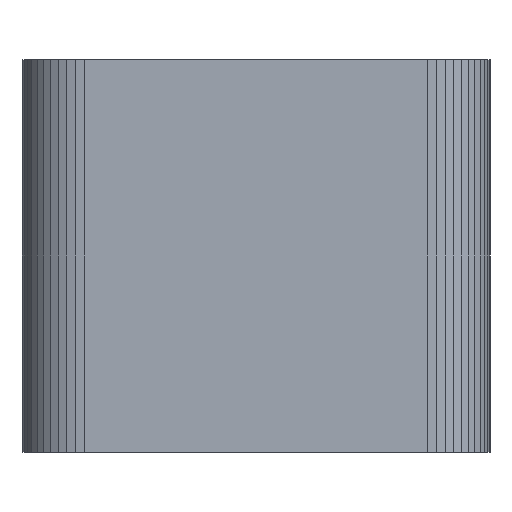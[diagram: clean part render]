
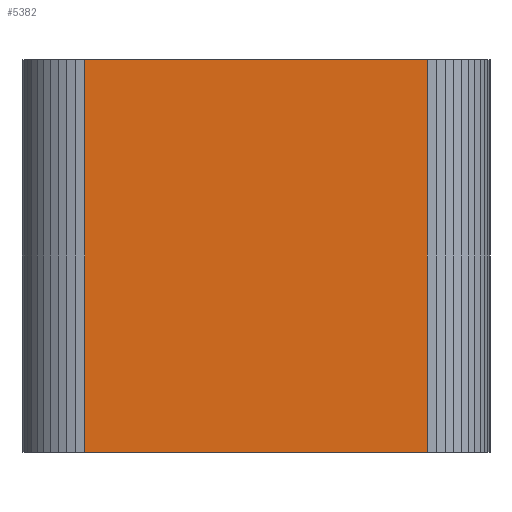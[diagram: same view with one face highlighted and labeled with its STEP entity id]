
A CAD part, left-side view. The second image highlights one B-rep face of the part: STEP entity #5382.
In plain terms, the highlighted planar face has unit normal (-1, 0, 0).
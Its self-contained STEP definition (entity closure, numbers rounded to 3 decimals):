
#72 = PLANE('',#73);
#73 = AXIS2_PLACEMENT_3D('',#74,#75,#76);
#74 = CARTESIAN_POINT('',(0.,0.,66.5));
#75 = DIRECTION('',(0.,0.,1.));
#76 = DIRECTION('',(1.,0.,-0.));
#126 = PLANE('',#127);
#127 = AXIS2_PLACEMENT_3D('',#128,#129,#130);
#128 = CARTESIAN_POINT('',(0.,0.,0.));
#129 = DIRECTION('',(0.,0.,1.));
#130 = DIRECTION('',(1.,0.,-0.));
#494 = VERTEX_POINT('',#495);
#495 = CARTESIAN_POINT('',(-60.6,29.,66.5));
#509 = PLANE('',#510);
#510 = AXIS2_PLACEMENT_3D('',#511,#512,#513);
#511 = CARTESIAN_POINT('',(-60.492,30.509,0.));
#512 = DIRECTION('',(0.997,-0.071,0.));
#513 = DIRECTION('',(-0.071,-0.997,0.));
#521 = EDGE_CURVE('',#522,#494,#524,.T.);
#522 = VERTEX_POINT('',#523);
#523 = CARTESIAN_POINT('',(-60.6,-29.,66.5));
#524 = SURFACE_CURVE('',#525,(#529,#536),.PCURVE_S1.);
#525 = LINE('',#526,#527);
#526 = CARTESIAN_POINT('',(-60.6,-29.,66.5));
#527 = VECTOR('',#528,1.);
#528 = DIRECTION('',(0.,1.,0.));
#529 = PCURVE('',#72,#530);
#530 = DEFINITIONAL_REPRESENTATION('',(#531),#535);
#531 = LINE('',#532,#533);
#532 = CARTESIAN_POINT('',(-60.6,-29.));
#533 = VECTOR('',#534,1.);
#534 = DIRECTION('',(0.,1.));
#535 = ( GEOMETRIC_REPRESENTATION_CONTEXT(2) 
PARAMETRIC_REPRESENTATION_CONTEXT() REPRESENTATION_CONTEXT('2D SPACE',''
  ) );
#536 = PCURVE('',#537,#542);
#537 = PLANE('',#538);
#538 = AXIS2_PLACEMENT_3D('',#539,#540,#541);
#539 = CARTESIAN_POINT('',(-60.6,29.,0.));
#540 = DIRECTION('',(1.,0.,-0.));
#541 = DIRECTION('',(0.,-1.,0.));
#542 = DEFINITIONAL_REPRESENTATION('',(#543),#547);
#543 = LINE('',#544,#545);
#544 = CARTESIAN_POINT('',(58.,-66.5));
#545 = VECTOR('',#546,1.);
#546 = DIRECTION('',(-1.,0.));
#547 = ( GEOMETRIC_REPRESENTATION_CONTEXT(2) 
PARAMETRIC_REPRESENTATION_CONTEXT() REPRESENTATION_CONTEXT('2D SPACE',''
  ) );
#565 = PLANE('',#566);
#566 = AXIS2_PLACEMENT_3D('',#567,#568,#569);
#567 = CARTESIAN_POINT('',(-60.6,-29.,0.));
#568 = DIRECTION('',(0.997,0.071,-0.));
#569 = DIRECTION('',(0.071,-0.997,0.));
#3007 = VERTEX_POINT('',#3008);
#3008 = CARTESIAN_POINT('',(-60.6,29.,0.));
#3029 = EDGE_CURVE('',#3007,#3030,#3032,.T.);
#3030 = VERTEX_POINT('',#3031);
#3031 = CARTESIAN_POINT('',(-60.6,-29.,0.));
#3032 = SURFACE_CURVE('',#3033,(#3037,#3044),.PCURVE_S1.);
#3033 = LINE('',#3034,#3035);
#3034 = CARTESIAN_POINT('',(-60.6,29.,0.));
#3035 = VECTOR('',#3036,1.);
#3036 = DIRECTION('',(0.,-1.,0.));
#3037 = PCURVE('',#126,#3038);
#3038 = DEFINITIONAL_REPRESENTATION('',(#3039),#3043);
#3039 = LINE('',#3040,#3041);
#3040 = CARTESIAN_POINT('',(-60.6,29.));
#3041 = VECTOR('',#3042,1.);
#3042 = DIRECTION('',(0.,-1.));
#3043 = ( GEOMETRIC_REPRESENTATION_CONTEXT(2) 
PARAMETRIC_REPRESENTATION_CONTEXT() REPRESENTATION_CONTEXT('2D SPACE',''
  ) );
#3044 = PCURVE('',#537,#3045);
#3045 = DEFINITIONAL_REPRESENTATION('',(#3046),#3050);
#3046 = LINE('',#3047,#3048);
#3047 = CARTESIAN_POINT('',(0.,0.));
#3048 = VECTOR('',#3049,1.);
#3049 = DIRECTION('',(1.,0.));
#3050 = ( GEOMETRIC_REPRESENTATION_CONTEXT(2) 
PARAMETRIC_REPRESENTATION_CONTEXT() REPRESENTATION_CONTEXT('2D SPACE',''
  ) );
#5334 = EDGE_CURVE('',#3007,#494,#5335,.T.);
#5335 = SURFACE_CURVE('',#5336,(#5340,#5347),.PCURVE_S1.);
#5336 = LINE('',#5337,#5338);
#5337 = CARTESIAN_POINT('',(-60.6,29.,0.));
#5338 = VECTOR('',#5339,1.);
#5339 = DIRECTION('',(0.,0.,1.));
#5340 = PCURVE('',#509,#5341);
#5341 = DEFINITIONAL_REPRESENTATION('',(#5342),#5346);
#5342 = LINE('',#5343,#5344);
#5343 = CARTESIAN_POINT('',(1.512,0.));
#5344 = VECTOR('',#5345,1.);
#5345 = DIRECTION('',(0.,-1.));
#5346 = ( GEOMETRIC_REPRESENTATION_CONTEXT(2) 
PARAMETRIC_REPRESENTATION_CONTEXT() REPRESENTATION_CONTEXT('2D SPACE',''
  ) );
#5347 = PCURVE('',#537,#5348);
#5348 = DEFINITIONAL_REPRESENTATION('',(#5349),#5353);
#5349 = LINE('',#5350,#5351);
#5350 = CARTESIAN_POINT('',(0.,0.));
#5351 = VECTOR('',#5352,1.);
#5352 = DIRECTION('',(0.,-1.));
#5353 = ( GEOMETRIC_REPRESENTATION_CONTEXT(2) 
PARAMETRIC_REPRESENTATION_CONTEXT() REPRESENTATION_CONTEXT('2D SPACE',''
  ) );
#5382 = ADVANCED_FACE('',(#5383),#537,.F.);
#5383 = FACE_BOUND('',#5384,.F.);
#5384 = EDGE_LOOP('',(#5385,#5386,#5387,#5408));
#5385 = ORIENTED_EDGE('',*,*,#5334,.T.);
#5386 = ORIENTED_EDGE('',*,*,#521,.F.);
#5387 = ORIENTED_EDGE('',*,*,#5388,.F.);
#5388 = EDGE_CURVE('',#3030,#522,#5389,.T.);
#5389 = SURFACE_CURVE('',#5390,(#5394,#5401),.PCURVE_S1.);
#5390 = LINE('',#5391,#5392);
#5391 = CARTESIAN_POINT('',(-60.6,-29.,0.));
#5392 = VECTOR('',#5393,1.);
#5393 = DIRECTION('',(0.,0.,1.));
#5394 = PCURVE('',#537,#5395);
#5395 = DEFINITIONAL_REPRESENTATION('',(#5396),#5400);
#5396 = LINE('',#5397,#5398);
#5397 = CARTESIAN_POINT('',(58.,0.));
#5398 = VECTOR('',#5399,1.);
#5399 = DIRECTION('',(0.,-1.));
#5400 = ( GEOMETRIC_REPRESENTATION_CONTEXT(2) 
PARAMETRIC_REPRESENTATION_CONTEXT() REPRESENTATION_CONTEXT('2D SPACE',''
  ) );
#5401 = PCURVE('',#565,#5402);
#5402 = DEFINITIONAL_REPRESENTATION('',(#5403),#5407);
#5403 = LINE('',#5404,#5405);
#5404 = CARTESIAN_POINT('',(0.,0.));
#5405 = VECTOR('',#5406,1.);
#5406 = DIRECTION('',(0.,-1.));
#5407 = ( GEOMETRIC_REPRESENTATION_CONTEXT(2) 
PARAMETRIC_REPRESENTATION_CONTEXT() REPRESENTATION_CONTEXT('2D SPACE',''
  ) );
#5408 = ORIENTED_EDGE('',*,*,#3029,.F.);
